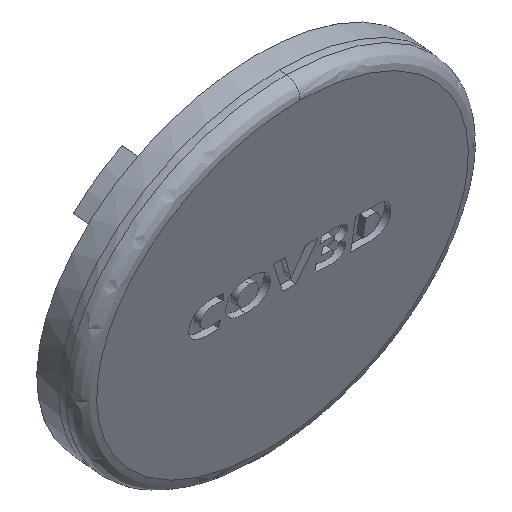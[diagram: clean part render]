
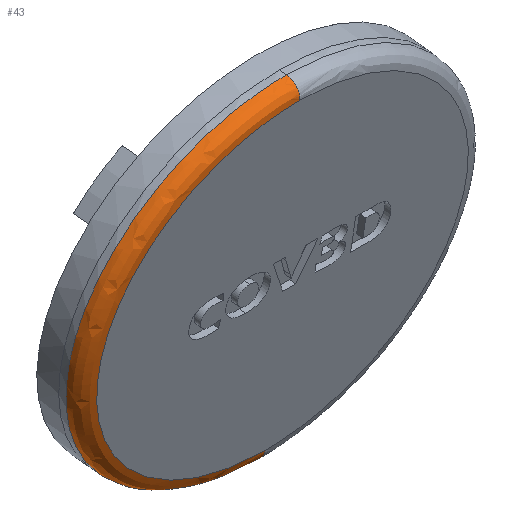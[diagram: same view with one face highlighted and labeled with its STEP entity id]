
A CAD part, isometric view. The second image highlights one B-rep face of the part: STEP entity #43.
In plain terms, the highlighted free-form (B-spline) face has degree [2, 2] with [3, 5] control points.
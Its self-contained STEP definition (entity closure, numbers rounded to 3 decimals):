
#43=ADVANCED_FACE('',(#110),#1043,.T.);
#110=FACE_OUTER_BOUND('',#186,.T.);
#186=EDGE_LOOP('',(#321,#322,#323,#324));
#321=ORIENTED_EDGE('',*,*,#577,.F.);
#322=ORIENTED_EDGE('',*,*,#578,.T.);
#323=ORIENTED_EDGE('',*,*,#579,.T.);
#324=ORIENTED_EDGE('',*,*,#713,.F.);
#577=EDGE_CURVE('',#888,#977,#727,.T.);
#578=EDGE_CURVE('',#888,#889,#728,.T.);
#579=EDGE_CURVE('',#889,#978,#729,.T.);
#713=EDGE_CURVE('',#977,#978,#746,.T.);
#727=(
BOUNDED_CURVE()
B_SPLINE_CURVE(2,(#2068,#2069,#2070,#2071,#2072),.UNSPECIFIED.,.F.,.F.)
B_SPLINE_CURVE_WITH_KNOTS((3,2,3),(0.,43.396,86.792),
 .UNSPECIFIED.)
CURVE()
GEOMETRIC_REPRESENTATION_ITEM()
RATIONAL_B_SPLINE_CURVE((1.,0.707,1.,0.707,1.))
REPRESENTATION_ITEM('')
);
#728=(
BOUNDED_CURVE()
B_SPLINE_CURVE(2,(#2073,#2074,#2075),.UNSPECIFIED.,.F.,.F.)
B_SPLINE_CURVE_WITH_KNOTS((3,3),(0.,3.727),.UNSPECIFIED.)
CURVE()
GEOMETRIC_REPRESENTATION_ITEM()
RATIONAL_B_SPLINE_CURVE((1.,0.707,1.))
REPRESENTATION_ITEM('')
);
#729=(
BOUNDED_CURVE()
B_SPLINE_CURVE(2,(#2076,#2077,#2078,#2079,#2080),.UNSPECIFIED.,.F.,.F.)
B_SPLINE_CURVE_WITH_KNOTS((3,2,3),(0.,43.396,86.792),
 .UNSPECIFIED.)
CURVE()
GEOMETRIC_REPRESENTATION_ITEM()
RATIONAL_B_SPLINE_CURVE((1.,0.707,1.,0.707,1.))
REPRESENTATION_ITEM('')
);
#746=(
BOUNDED_CURVE()
B_SPLINE_CURVE(2,(#2816,#2817,#2818),.UNSPECIFIED.,.F.,.F.)
B_SPLINE_CURVE_WITH_KNOTS((3,3),(0.,3.727),.UNSPECIFIED.)
CURVE()
GEOMETRIC_REPRESENTATION_ITEM()
RATIONAL_B_SPLINE_CURVE((1.,0.707,1.))
REPRESENTATION_ITEM('')
);
#888=VERTEX_POINT('',#1920);
#889=VERTEX_POINT('',#1921);
#977=VERTEX_POINT('',#2009);
#978=VERTEX_POINT('',#2010);
#1043=(
BOUNDED_SURFACE()
B_SPLINE_SURFACE(2,2,((#1190,#1191,#1192,#1193,#1194),(#1195,#1196,#1197,
#1198,#1199),(#1200,#1201,#1202,#1203,#1204)),.UNSPECIFIED.,.F.,.F.,.F.)
B_SPLINE_SURFACE_WITH_KNOTS((3,3),(3,2,3),(0.,3.727),(0.,43.396,
86.792),.UNSPECIFIED.)
GEOMETRIC_REPRESENTATION_ITEM()
RATIONAL_B_SPLINE_SURFACE(((1.,0.707,1.,0.707,1.),
(0.707,0.5,0.707,0.5,
0.707),(1.,0.707,1.,0.707,1.)))
REPRESENTATION_ITEM('')
SURFACE()
);
#1190=CARTESIAN_POINT('',(-0.114,-104.367,-19.512));
#1191=CARTESIAN_POINT('',(-31.812,-104.329,-19.507));
#1192=CARTESIAN_POINT('',(-31.812,-107.291,7.967));
#1193=CARTESIAN_POINT('',(-31.812,-110.253,35.442));
#1194=CARTESIAN_POINT('',(-0.114,-110.291,35.438));
#1195=CARTESIAN_POINT('',(-0.116,-106.726,-19.766));
#1196=CARTESIAN_POINT('',(-31.815,-106.688,-19.762));
#1197=CARTESIAN_POINT('',(-31.815,-109.65,7.713));
#1198=CARTESIAN_POINT('',(-31.815,-112.612,35.188));
#1199=CARTESIAN_POINT('',(-0.116,-112.651,35.183));
#1200=CARTESIAN_POINT('',(-0.116,-106.96,-17.593));
#1201=CARTESIAN_POINT('',(-29.308,-106.925,-17.589));
#1202=CARTESIAN_POINT('',(-29.308,-109.653,7.713));
#1203=CARTESIAN_POINT('',(-29.308,-112.381,33.014));
#1204=CARTESIAN_POINT('',(-0.116,-112.416,33.01));
#1920=CARTESIAN_POINT('',(-0.114,-104.367,-19.512));
#1921=CARTESIAN_POINT('',(-0.116,-106.96,-17.593));
#2009=CARTESIAN_POINT('',(-0.114,-110.291,35.438));
#2010=CARTESIAN_POINT('',(-0.116,-112.416,33.01));
#2068=CARTESIAN_POINT('',(-0.114,-104.367,-19.512));
#2069=CARTESIAN_POINT('',(-31.812,-104.329,-19.507));
#2070=CARTESIAN_POINT('',(-31.812,-107.291,7.967));
#2071=CARTESIAN_POINT('',(-31.812,-110.253,35.442));
#2072=CARTESIAN_POINT('',(-0.114,-110.291,35.438));
#2073=CARTESIAN_POINT('',(-0.114,-104.367,-19.512));
#2074=CARTESIAN_POINT('',(-0.116,-106.726,-19.766));
#2075=CARTESIAN_POINT('',(-0.116,-106.96,-17.593));
#2076=CARTESIAN_POINT('',(-0.116,-106.96,-17.593));
#2077=CARTESIAN_POINT('',(-29.308,-106.925,-17.589));
#2078=CARTESIAN_POINT('',(-29.308,-109.653,7.713));
#2079=CARTESIAN_POINT('',(-29.308,-112.381,33.014));
#2080=CARTESIAN_POINT('',(-0.116,-112.416,33.01));
#2816=CARTESIAN_POINT('',(-0.114,-110.291,35.438));
#2817=CARTESIAN_POINT('',(-0.116,-112.651,35.183));
#2818=CARTESIAN_POINT('',(-0.116,-112.416,33.01));
